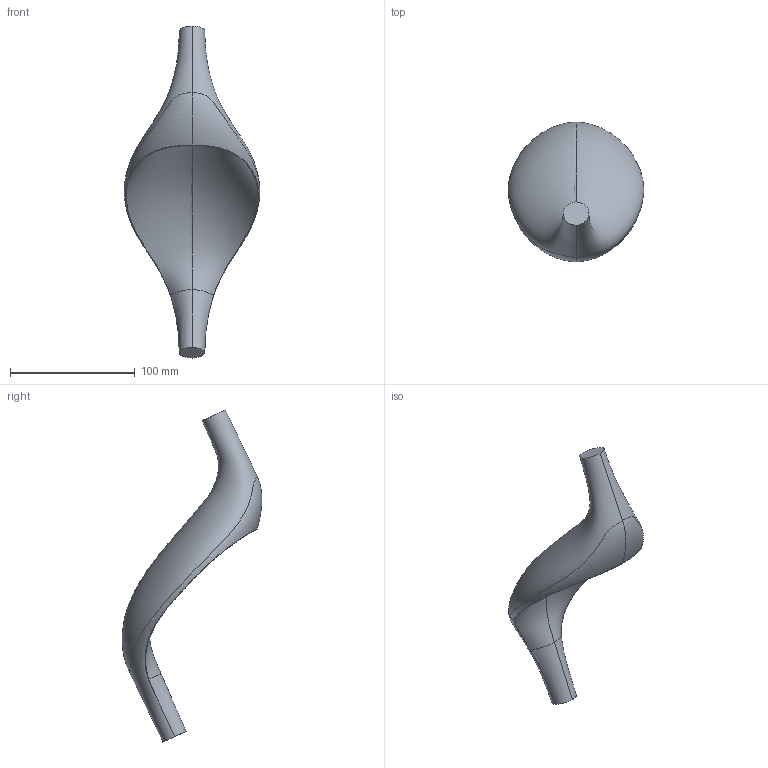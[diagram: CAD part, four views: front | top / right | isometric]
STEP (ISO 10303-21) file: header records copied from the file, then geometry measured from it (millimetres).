
FILE_DESCRIPTION(/* description */ (''),/* implementation_level */ '2;1');
FILE_NAME(/* name */ 'cini&nils-Acqua_corpo_illuminante_downlight-3d',/* time_stamp */ '2017-09-11T11:13:45+02:00',/* author */ (''),/* organization */ (''),/* preprocessor_version */ 'ST-DEVELOPER v15',/* originating_system */ '',/* authorisation */ '');
FILE_SCHEMA (('CONFIG_CONTROL_DESIGN'));
Length unit declared in the file: millimetre
Products named in the file (1): Document
Bounding box: 108.96 x 112.19 x 266.59 mm (x, y, z)
Volume: 273607.3 mm3; surface area: 49925.4 mm2
Topology: 1 solids, 1 shells, 20 faces, 53 edges, 31 vertices
Faces by surface type: bspline 20
Entity records: 115640 total; most frequent: CARTESIAN_POINT 115241, ORIENTED_EDGE 98, EDGE_CURVE 49, B_SPLINE_CURVE_WITH_KNOTS 49, VERTEX_POINT 31, ADVANCED_FACE 20, FACE_OUTER_BOUND 20, EDGE_LOOP 20
